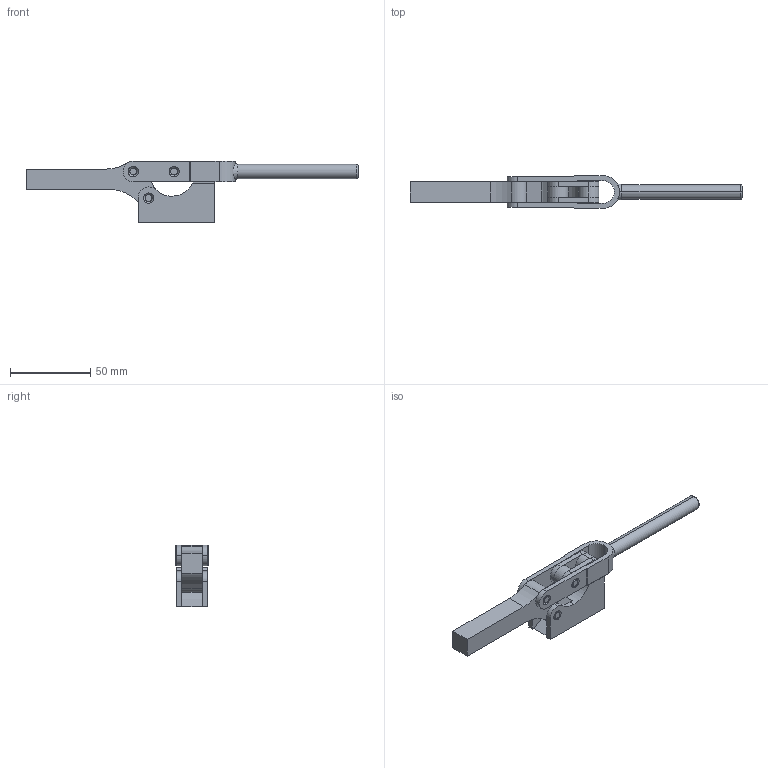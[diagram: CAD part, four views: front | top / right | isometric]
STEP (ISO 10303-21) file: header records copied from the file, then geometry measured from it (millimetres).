
FILE_DESCRIPTION( ( '' ), '1' );
FILE_NAME( 'C:\Documents and Settings\Richard Grenzke\My Documents\Wolverine Company Data\WOLVERINE CD 5_17_05\SOLIDS STEP\hold_down\c305.stp', ' ', ( '' ), ( '' ), 'ACIS Interop R16', 'Kubotek KeyCreator V5.5.1 (0454)', ' ' );
FILE_SCHEMA( ( 'CONFIG_CONTROL_DESIGN' ) );
Length unit declared in the file: inch
Products named in the file (10): 1; 2; 3; 4; 5; 6; 7; 8; 9; 10
Bounding box: 206.38 x 20.32 x 38.11 mm (x, y, z)
Volume: 44343.8 mm3; surface area: 21006.6 mm2
Topology: 9 solids, 9 shells, 140 faces, 382 edges, 260 vertices
Faces by surface type: cylinder 67, plane 53, cone 18, torus 2
Entity records: 5087 total; most frequent: DIRECTION 872, CARTESIAN_POINT 844, ORIENTED_EDGE 764, EDGE_CURVE 382, AXIS2_PLACEMENT_3D 344, VERTEX_POINT 260, CIRCLE 194, LINE 184
